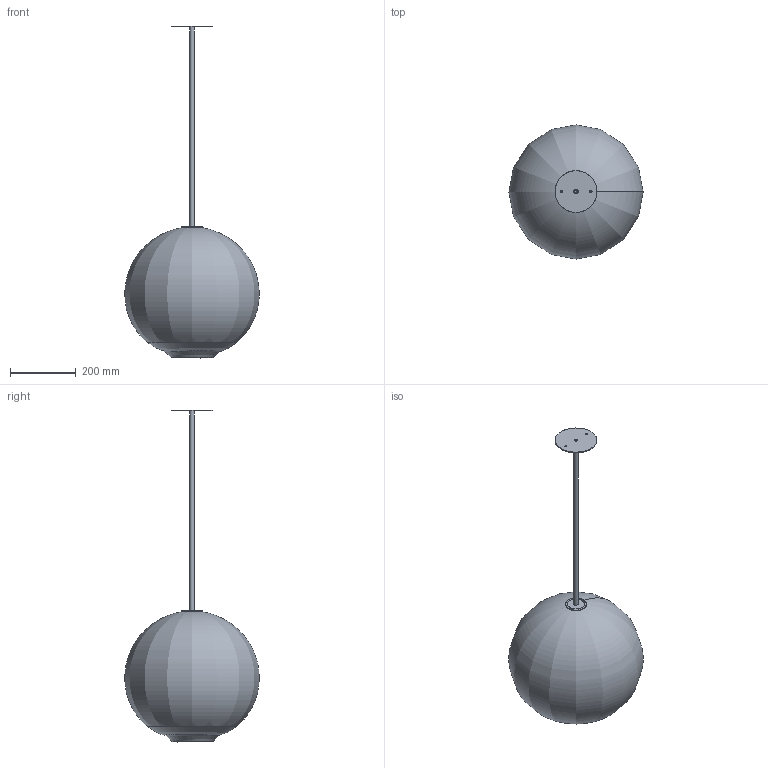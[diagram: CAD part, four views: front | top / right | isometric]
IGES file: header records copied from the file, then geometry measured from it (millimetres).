
Global section: file name: /Users/danielszollosi/Documents/SkLO/Sklo.com/3D models/WEB 3D Models/SkLO_Float_1.0_Pendant_16_LT254_3D.igs; native system: Rhinoceros ( Sep 24 2023 ); preprocessor: Trout Lake IGES 012 Sep 24 2023; date: 241023.141938; units: millimetre
Bounding box: 407.65 x 407.74 x 1008.09 mm (x, y, z)
Surface area: 1124180.7 mm2 (no closed solid volume)
Topology: 0 solids, 0 shells, 388 faces, 4307 edges, 4234 vertices
Faces by surface type: bspline 388
